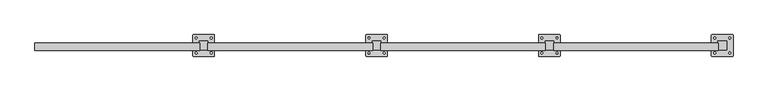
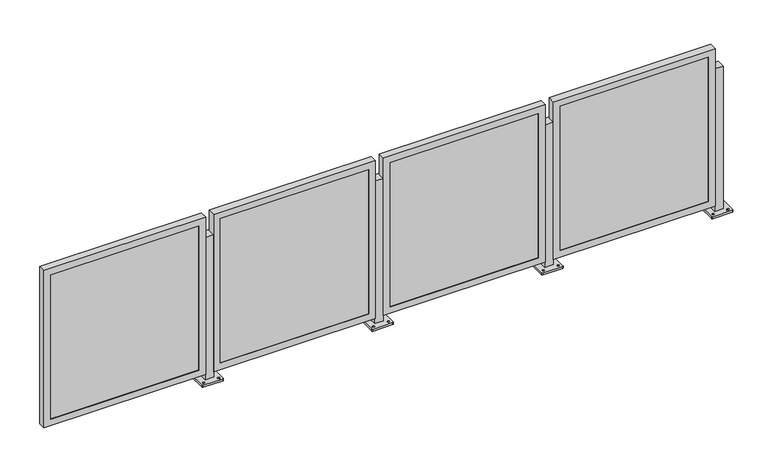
"""IFC4 building model written with IfcOpenShell, lengths in millimetres: railing geometry."""

from ifc_helpers import new_model, si_unit, frame, origin, place, context, project, spatial, polyline, circle_curve, outline, extrude, faceted_brep, source, transform, mapped, element, save
from ifc_brep_helpers import plane_surface, cylinder_surface, revolved_surface, advanced_brep


def railing_2fe99872(model_context):
    return source(origin(), model_context, "Body", "SolidModel", [
        advanced_brep(
        [(-7238.6460435, -9692.6420964, 914.4), (-7238.6460435, -9743.4420964, 914.4), (-7187.8460435, -9743.4420964, 914.4), (-7187.8460435, -9692.6420964, 914.4), (-7276.7460437, -9778.3670554, 0.0), (-7276.7460437, -9657.7171374, 0.0), (-7273.5710155, -9654.5421093, 0.0), (-7152.9210715, -9654.5421093, 0.0), (-7149.7460433, -9657.7171374, 0.0), (-7149.7460433, -9778.3670554, 0.0), (-7152.9210715, -9781.5420835, 0.0), (-7273.5710155, -9781.5420835, 0.0), (-7257.6960311, -9768.0483511, 0.0), (-7257.6960311, -9756.9358386, 0.0), (-7257.696042, -9679.1483467, 0.0), (-7257.696042, -9668.0358651, 0.0), (-7168.7960301, -9768.0483495, 0.0), (-7168.7960301, -9756.9358389, 0.0), (-7168.796041, -9679.1483452, 0.0), (-7168.796041, -9668.0358654, 0.0), (-7238.6460435, -9692.6420964, 12.7), (-7238.6460435, -9743.4420964, 12.7), (-7187.8460435, -9743.4420964, 12.7), (-7187.8460435, -9692.6420964, 12.7), (-7276.7460437, -9778.3670554, 12.7), (-7273.5710155, -9781.5420835, 12.7), (-7152.9210715, -9781.5420835, 12.7), (-7149.7460433, -9778.3670554, 12.7), (-7149.7460433, -9657.7171374, 12.7), (-7152.9210715, -9654.5421093, 12.7), (-7273.5710155, -9654.5421093, 12.7), (-7276.7460437, -9657.7171374, 12.7), (-7257.6960311, -9768.0483511, 12.7), (-7257.6960311, -9756.9358386, 12.7), (-7257.696042, -9679.1483467, 12.7), (-7257.696042, -9668.0358651, 12.7), (-7168.7960301, -9768.0483495, 12.7), (-7168.7960301, -9756.9358389, 12.7), (-7168.796041, -9679.1483452, 12.7), (-7168.796041, -9668.0358654, 12.7)],
        [
            (0, 1),
            (1, 2),
            (2, 3),
            (3, 0),
            (4, 5),
            (5, 6, circle_curve(frame((-7273.5710155, -9657.7171374, 0.0), z_axis=(0.0, 0.0, -1.0), x_axis=(0.0, 1.0, 0.0)), 3.1750282)),
            (6, 7),
            (7, 8, circle_curve(frame((-7152.9210715, -9657.7171374, 0.0), z_axis=(0.0, 0.0, -1.0), x_axis=(0.0, 1.0, 0.0)), 3.1750282)),
            (8, 9),
            (9, 10, circle_curve(frame((-7152.9210715, -9778.3670554, 0.0), z_axis=(0.0, 0.0, -1.0), x_axis=(0.0, 1.0, 0.0)), 3.1750282)),
            (10, 11),
            (11, 4, circle_curve(frame((-7273.5710155, -9778.3670554, 0.0), z_axis=(0.0, 0.0, -1.0), x_axis=(0.0, 1.0, 0.0)), 3.1750282)),
            (12, 13, circle_curve(frame((-7257.6960311, -9762.4920948, 0.0), z_axis=(0.0, 0.0, 1.0), x_axis=(0.0, 1.0, 0.0)), 5.5562562)),
            (13, 12, circle_curve(frame((-7257.6960311, -9762.4920948, 0.0), z_axis=(0.0, 0.0, 1.0), x_axis=(0.0, 1.0, 0.0)), 5.5562562)),
            (14, 15, circle_curve(frame((-7257.696042, -9673.5921059, 0.0), z_axis=(0.0, 0.0, 1.0), x_axis=(0.0, 1.0, 0.0)), 5.5562408)),
            (15, 14, circle_curve(frame((-7257.696042, -9673.5921059, 0.0), z_axis=(0.0, 0.0, 1.0), x_axis=(0.0, 1.0, 0.0)), 5.5562408)),
            (16, 17, circle_curve(frame((-7168.7960301, -9762.4920942, 0.0), z_axis=(0.0, 0.0, 1.0), x_axis=(0.0, 1.0, 0.0)), 5.5562553)),
            (17, 16, circle_curve(frame((-7168.7960301, -9762.4920942, 0.0), z_axis=(0.0, 0.0, 1.0), x_axis=(0.0, 1.0, 0.0)), 5.5562553)),
            (18, 19, circle_curve(frame((-7168.796041, -9673.5921053, 0.0), z_axis=(0.0, 0.0, 1.0), x_axis=(0.0, 1.0, 0.0)), 5.5562399)),
            (19, 18, circle_curve(frame((-7168.796041, -9673.5921053, 0.0), z_axis=(0.0, 0.0, 1.0), x_axis=(0.0, 1.0, 0.0)), 5.5562399)),
            (0, 20),
            (20, 21),
            (21, 1),
            (21, 22),
            (22, 2),
            (22, 23),
            (23, 3),
            (23, 20),
            (24, 25, circle_curve(frame((-7273.5710155, -9778.3670554, 12.7), z_axis=(0.0, 0.0, 1.0), x_axis=(0.0, 1.0, 0.0)), 3.1750282)),
            (25, 26),
            (26, 27, circle_curve(frame((-7152.9210715, -9778.3670554, 12.7), z_axis=(0.0, 0.0, 1.0), x_axis=(0.0, 1.0, 0.0)), 3.1750282)),
            (27, 28),
            (28, 29, circle_curve(frame((-7152.9210715, -9657.7171374, 12.7), z_axis=(0.0, 0.0, 1.0), x_axis=(0.0, 1.0, 0.0)), 3.1750282)),
            (29, 30),
            (30, 31, circle_curve(frame((-7273.5710155, -9657.7171374, 12.7), z_axis=(0.0, 0.0, 1.0), x_axis=(0.0, 1.0, 0.0)), 3.1750282)),
            (31, 24),
            (32, 33, circle_curve(frame((-7257.6960311, -9762.4920948, 12.7), z_axis=(0.0, 0.0, -1.0), x_axis=(0.0, 1.0, 0.0)), 5.5562562)),
            (33, 32, circle_curve(frame((-7257.6960311, -9762.4920948, 12.7), z_axis=(0.0, 0.0, -1.0), x_axis=(0.0, 1.0, 0.0)), 5.5562562)),
            (34, 35, circle_curve(frame((-7257.696042, -9673.5921059, 12.7), z_axis=(0.0, 0.0, -1.0), x_axis=(0.0, 1.0, 0.0)), 5.5562408)),
            (35, 34, circle_curve(frame((-7257.696042, -9673.5921059, 12.7), z_axis=(0.0, 0.0, -1.0), x_axis=(0.0, 1.0, 0.0)), 5.5562408)),
            (36, 37, circle_curve(frame((-7168.7960301, -9762.4920942, 12.7), z_axis=(0.0, 0.0, -1.0), x_axis=(0.0, 1.0, 0.0)), 5.5562553)),
            (37, 36, circle_curve(frame((-7168.7960301, -9762.4920942, 12.7), z_axis=(0.0, 0.0, -1.0), x_axis=(0.0, 1.0, 0.0)), 5.5562553)),
            (38, 39, circle_curve(frame((-7168.796041, -9673.5921053, 12.7), z_axis=(0.0, 0.0, -1.0), x_axis=(0.0, 1.0, 0.0)), 5.5562399)),
            (39, 38, circle_curve(frame((-7168.796041, -9673.5921053, 12.7), z_axis=(0.0, 0.0, -1.0), x_axis=(0.0, 1.0, 0.0)), 5.5562399)),
            (24, 4),
            (11, 25),
            (10, 26),
            (9, 27),
            (8, 28),
            (7, 29),
            (6, 30),
            (5, 31),
            (32, 12),
            (13, 33),
            (34, 14),
            (15, 35),
            (36, 16),
            (17, 37),
            (38, 18),
            (19, 39),
        ],
        [
            plane_surface(frame((-7238.6460435, -9743.4420964, 914.4), z_axis=(0.0, 0.0, 1.0), x_axis=(0.0, -1.0, 0.0))),
            plane_surface(frame((-7238.6460435, -9743.4420964, 0.0), z_axis=(0.0, 0.0, -1.0), x_axis=(0.0, 1.0, 0.0))),
            plane_surface(frame((-7238.6460435, -9692.6420964, 914.4), z_axis=(-1.0, 0.0, 0.0), x_axis=(0.0, 0.0, -1.0))),
            plane_surface(frame((-7238.6460435, -9743.4420964, 914.4), z_axis=(0.0, -1.0, 0.0), x_axis=(0.0, 0.0, -1.0))),
            plane_surface(frame((-7187.8460435, -9743.4420964, 914.4), z_axis=(1.0, 0.0, 0.0), x_axis=(0.0, 0.0, -1.0))),
            plane_surface(frame((-7187.8460435, -9692.6420964, 914.4), z_axis=(0.0, 1.0, 0.0), x_axis=(0.0, 0.0, -1.0))),
            plane_surface(frame((-7273.5710155, -9775.1920272, 12.7), z_axis=(0.0, 0.0, 1.0), x_axis=(-1.0, 0.0, 0.0))),
            cylinder_surface(frame((-7273.5710155, -9778.3670554, 0.0), z_axis=(0.0, 0.0, 1.0), x_axis=(0.0, 1.0, 0.0)), 3.1750282),
            plane_surface(frame((-7273.5710155, -9781.5420835, 12.7), z_axis=(1.1945386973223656e-12, -1.0, 0.0), x_axis=(0.0, 0.0, -1.0))),
            cylinder_surface(frame((-7152.9210715, -9778.3670554, 0.0), z_axis=(0.0, 0.0, 1.0), x_axis=(0.0, 1.0, 0.0)), 3.1750282),
            plane_surface(frame((-7149.7460433, -9778.3670554, 12.7), z_axis=(1.0, 0.0, 0.0), x_axis=(0.0, 0.0, -1.0))),
            cylinder_surface(frame((-7152.9210715, -9657.7171374, 0.0), z_axis=(0.0, 0.0, 1.0), x_axis=(0.0, 1.0, 0.0)), 3.1750282),
            plane_surface(frame((-7152.9210715, -9654.5421093, 12.7), z_axis=(-1.1946088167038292e-12, 1.0, 0.0), x_axis=(0.0, 0.0, -1.0))),
            cylinder_surface(frame((-7273.5710155, -9657.7171374, 0.0), z_axis=(0.0, 0.0, 1.0), x_axis=(0.0, 1.0, 0.0)), 3.1750282),
            plane_surface(frame((-7276.7460437, -9657.7171374, 12.7), z_axis=(-1.0, 0.0, 0.0), x_axis=(0.0, 0.0, -1.0))),
            revolved_surface(polyline([(-7257.6960311, -9756.9358386, 0.0), (-7257.6960311, -9756.9358386, 12.7)]), (-7257.6960311, -9762.4920948, 0.0), (0.0, 0.0, -1.0)),
            revolved_surface(polyline([(-7257.696042, -9668.035865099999, 0.0), (-7257.696042, -9668.035865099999, 12.7)]), (-7257.696042, -9673.5921059, 0.0), (0.0, 0.0, -1.0)),
            revolved_surface(polyline([(-7168.7960301, -9756.9358389, 0.0), (-7168.7960301, -9756.9358389, 12.7)]), (-7168.7960301, -9762.4920942, 0.0), (0.0, 0.0, -1.0)),
            revolved_surface(polyline([(-7168.796041, -9668.035865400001, 0.0), (-7168.796041, -9668.035865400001, 12.7)]), (-7168.796041, -9673.5921053, 0.0), (0.0, 0.0, -1.0)),
        ],
        [
            (0, [[1, 2, 3, 4]]),
            (1, [[5, 6, 7, 8, 9, 10, 11, 12], [13, 14], [15, 16], [17, 18], [19, 20]]),
            (2, [[-1, 21, 22, 23]]),
            (3, [[-2, -23, 24, 25]]),
            (4, [[-3, -25, 26, 27]]),
            (5, [[-4, -27, 28, -21]]),
            (6, [[29, 30, 31, 32, 33, 34, 35, 36], [-22, -28, -26, -24], [37, 38], [39, 40], [41, 42], [43, 44]]),
            (7, [[-29, 45, -12, 46]]),
            (8, [[-30, -46, -11, 47]]),
            (9, [[-31, -47, -10, 48]]),
            (10, [[-32, -48, -9, 49]]),
            (11, [[-33, -49, -8, 50]]),
            (12, [[-34, -50, -7, 51]]),
            (13, [[-35, -51, -6, 52]]),
            (14, [[-36, -52, -5, -45]]),
            (15, [[-37, 53, -14, 54]]),
            (15, [[-38, -54, -13, -53]]),
            (16, [[-39, 55, -16, 56]]),
            (16, [[-40, -56, -15, -55]]),
            (17, [[-41, 57, -18, 58]]),
            (17, [[-42, -58, -17, -57]]),
            (18, [[-43, 59, -20, 60]]),
            (18, [[-44, -60, -19, -59]]),
        ],
    ),
        faceted_brep([(-8205.0504969, -9746.1852964, 47.625), (-7236.6754969, -9746.1852964, 47.625), (-7236.6754969, -9746.1852964, 1044.575), (-8205.0504969, -9746.1852964, 1044.575), (-8163.7754969, -9746.1852964, 1003.3), (-7277.9504969, -9746.1852964, 1003.3), (-7277.9504969, -9746.1852964, 88.9), (-8163.7754969, -9746.1852964, 88.9), (-8163.7754969, -9743.4420964, 1003.3), (-8163.7754969, -9743.4420964, 88.9), (-8205.0504969, -9702.3119999, 1044.575), (-8205.0504969, -9702.3119999, 47.625), (-8201.8754969, -9702.3119999, 1041.4), (-8201.8754969, -9743.4420964, 1041.4), (-8201.8754969, -9743.4420964, 50.8), (-8201.8754969, -9702.3119999, 50.8), (-7277.9504969, -9743.4420964, 88.9), (-7236.6754969, -9702.3119999, 47.625), (-7239.8504969, -9743.4420964, 50.8), (-7239.8504969, -9702.3119999, 50.8), (-7277.9504969, -9743.4420964, 1003.3), (-7236.6754969, -9702.3119999, 1044.575), (-7239.8504969, -9743.4420964, 1041.4), (-7239.8504969, -9702.3119999, 1041.4)], [[[0, 1, 2, 3], [4, 5, 6, 7]], [[8, 4, 7, 9]], [[3, 10, 11, 0]], [[12, 13, 14, 15]], [[9, 7, 6, 16]], [[0, 11, 17, 1]], [[15, 14, 18, 19]], [[16, 6, 5, 20]], [[1, 17, 21, 2]], [[19, 18, 22, 23]], [[20, 5, 4, 8]], [[10, 21, 17, 11], [15, 19, 23, 12]], [[2, 21, 10, 3]], [[13, 22, 18, 14], [9, 16, 20, 8]], [[23, 22, 13, 12]]]),
        extrude(outline(polyline([(-8201.8754969, -9733.9170964), (-7239.8504969, -9733.9170964), (-7239.8504969, -9743.4420964), (-8201.8754969, -9743.4420964), (-8201.8754969, -9733.9170964)])), frame((0.0, 0.0, 50.8), z_axis=(0.0, 0.0, 1.0), x_axis=(1.0, 0.0, 0.0)), (0.0, 0.0, 1.0), 990.6),
        advanced_brep(
        [(-8254.6460435, -9692.6420964, 914.4), (-8254.6460435, -9743.4420964, 914.4), (-8203.8460435, -9743.4420964, 914.4), (-8203.8460435, -9692.6420964, 914.4), (-8292.7460437, -9778.3670554, 0.0), (-8292.7460437, -9657.7171374, 0.0), (-8289.5710155, -9654.5421093, 0.0), (-8168.9210715, -9654.5421093, 0.0), (-8165.7460433, -9657.7171374, 0.0), (-8165.7460433, -9778.3670554, 0.0), (-8168.9210715, -9781.5420835, 0.0), (-8289.5710155, -9781.5420835, 0.0), (-8273.6960311, -9768.0483511, 0.0), (-8273.6960311, -9756.9358386, 0.0), (-8273.696042, -9679.1483467, 0.0), (-8273.696042, -9668.0358651, 0.0), (-8184.7960301, -9768.0483495, 0.0), (-8184.7960301, -9756.9358389, 0.0), (-8184.796041, -9679.1483452, 0.0), (-8184.796041, -9668.0358654, 0.0), (-8254.6460435, -9692.6420964, 12.7), (-8254.6460435, -9743.4420964, 12.7), (-8203.8460435, -9743.4420964, 12.7), (-8203.8460435, -9692.6420964, 12.7), (-8292.7460437, -9778.3670554, 12.7), (-8289.5710155, -9781.5420835, 12.7), (-8168.9210715, -9781.5420835, 12.7), (-8165.7460433, -9778.3670554, 12.7), (-8165.7460433, -9657.7171374, 12.7), (-8168.9210715, -9654.5421093, 12.7), (-8289.5710155, -9654.5421093, 12.7), (-8292.7460437, -9657.7171374, 12.7), (-8273.6960311, -9768.0483511, 12.7), (-8273.6960311, -9756.9358386, 12.7), (-8273.696042, -9679.1483467, 12.7), (-8273.696042, -9668.0358651, 12.7), (-8184.7960301, -9768.0483495, 12.7), (-8184.7960301, -9756.9358389, 12.7), (-8184.796041, -9679.1483452, 12.7), (-8184.796041, -9668.0358654, 12.7)],
        [
            (0, 1),
            (1, 2),
            (2, 3),
            (3, 0),
            (4, 5),
            (5, 6, circle_curve(frame((-8289.5710155, -9657.7171374, 0.0), z_axis=(0.0, 0.0, -1.0), x_axis=(0.0, 1.0, 0.0)), 3.1750282)),
            (6, 7),
            (7, 8, circle_curve(frame((-8168.9210715, -9657.7171374, 0.0), z_axis=(0.0, 0.0, -1.0), x_axis=(0.0, 1.0, 0.0)), 3.1750282)),
            (8, 9),
            (9, 10, circle_curve(frame((-8168.9210715, -9778.3670554, 0.0), z_axis=(0.0, 0.0, -1.0), x_axis=(0.0, 1.0, 0.0)), 3.1750282)),
            (10, 11),
            (11, 4, circle_curve(frame((-8289.5710155, -9778.3670554, 0.0), z_axis=(0.0, 0.0, -1.0), x_axis=(0.0, 1.0, 0.0)), 3.1750282)),
            (12, 13, circle_curve(frame((-8273.6960311, -9762.4920948, 0.0), z_axis=(0.0, 0.0, 1.0), x_axis=(0.0, 1.0, 0.0)), 5.5562562)),
            (13, 12, circle_curve(frame((-8273.6960311, -9762.4920948, 0.0), z_axis=(0.0, 0.0, 1.0), x_axis=(0.0, 1.0, 0.0)), 5.5562562)),
            (14, 15, circle_curve(frame((-8273.696042, -9673.5921059, 0.0), z_axis=(0.0, 0.0, 1.0), x_axis=(0.0, 1.0, 0.0)), 5.5562408)),
            (15, 14, circle_curve(frame((-8273.696042, -9673.5921059, 0.0), z_axis=(0.0, 0.0, 1.0), x_axis=(0.0, 1.0, 0.0)), 5.5562408)),
            (16, 17, circle_curve(frame((-8184.7960301, -9762.4920942, 0.0), z_axis=(0.0, 0.0, 1.0), x_axis=(0.0, 1.0, 0.0)), 5.5562553)),
            (17, 16, circle_curve(frame((-8184.7960301, -9762.4920942, 0.0), z_axis=(0.0, 0.0, 1.0), x_axis=(0.0, 1.0, 0.0)), 5.5562553)),
            (18, 19, circle_curve(frame((-8184.796041, -9673.5921053, 0.0), z_axis=(0.0, 0.0, 1.0), x_axis=(0.0, 1.0, 0.0)), 5.5562399)),
            (19, 18, circle_curve(frame((-8184.796041, -9673.5921053, 0.0), z_axis=(0.0, 0.0, 1.0), x_axis=(0.0, 1.0, 0.0)), 5.5562399)),
            (0, 20),
            (20, 21),
            (21, 1),
            (21, 22),
            (22, 2),
            (22, 23),
            (23, 3),
            (23, 20),
            (24, 25, circle_curve(frame((-8289.5710155, -9778.3670554, 12.7), z_axis=(0.0, 0.0, 1.0), x_axis=(0.0, 1.0, 0.0)), 3.1750282)),
            (25, 26),
            (26, 27, circle_curve(frame((-8168.9210715, -9778.3670554, 12.7), z_axis=(0.0, 0.0, 1.0), x_axis=(0.0, 1.0, 0.0)), 3.1750282)),
            (27, 28),
            (28, 29, circle_curve(frame((-8168.9210715, -9657.7171374, 12.7), z_axis=(0.0, 0.0, 1.0), x_axis=(0.0, 1.0, 0.0)), 3.1750282)),
            (29, 30),
            (30, 31, circle_curve(frame((-8289.5710155, -9657.7171374, 12.7), z_axis=(0.0, 0.0, 1.0), x_axis=(0.0, 1.0, 0.0)), 3.1750282)),
            (31, 24),
            (32, 33, circle_curve(frame((-8273.6960311, -9762.4920948, 12.7), z_axis=(0.0, 0.0, -1.0), x_axis=(0.0, 1.0, 0.0)), 5.5562562)),
            (33, 32, circle_curve(frame((-8273.6960311, -9762.4920948, 12.7), z_axis=(0.0, 0.0, -1.0), x_axis=(0.0, 1.0, 0.0)), 5.5562562)),
            (34, 35, circle_curve(frame((-8273.696042, -9673.5921059, 12.7), z_axis=(0.0, 0.0, -1.0), x_axis=(0.0, 1.0, 0.0)), 5.5562408)),
            (35, 34, circle_curve(frame((-8273.696042, -9673.5921059, 12.7), z_axis=(0.0, 0.0, -1.0), x_axis=(0.0, 1.0, 0.0)), 5.5562408)),
            (36, 37, circle_curve(frame((-8184.7960301, -9762.4920942, 12.7), z_axis=(0.0, 0.0, -1.0), x_axis=(0.0, 1.0, 0.0)), 5.5562553)),
            (37, 36, circle_curve(frame((-8184.7960301, -9762.4920942, 12.7), z_axis=(0.0, 0.0, -1.0), x_axis=(0.0, 1.0, 0.0)), 5.5562553)),
            (38, 39, circle_curve(frame((-8184.796041, -9673.5921053, 12.7), z_axis=(0.0, 0.0, -1.0), x_axis=(0.0, 1.0, 0.0)), 5.5562399)),
            (39, 38, circle_curve(frame((-8184.796041, -9673.5921053, 12.7), z_axis=(0.0, 0.0, -1.0), x_axis=(0.0, 1.0, 0.0)), 5.5562399)),
            (24, 4),
            (11, 25),
            (10, 26),
            (9, 27),
            (8, 28),
            (7, 29),
            (6, 30),
            (5, 31),
            (32, 12),
            (13, 33),
            (34, 14),
            (15, 35),
            (36, 16),
            (17, 37),
            (38, 18),
            (19, 39),
        ],
        [
            plane_surface(frame((-8254.6460435, -9743.4420964, 914.4), z_axis=(0.0, 0.0, 1.0), x_axis=(0.0, -1.0, 0.0))),
            plane_surface(frame((-8254.6460435, -9743.4420964, 0.0), z_axis=(0.0, 0.0, -1.0), x_axis=(0.0, 1.0, 0.0))),
            plane_surface(frame((-8254.6460435, -9692.6420964, 914.4), z_axis=(-1.0, 0.0, 0.0), x_axis=(0.0, 0.0, -1.0))),
            plane_surface(frame((-8254.6460435, -9743.4420964, 914.4), z_axis=(0.0, -1.0, 0.0), x_axis=(0.0, 0.0, -1.0))),
            plane_surface(frame((-8203.8460435, -9743.4420964, 914.4), z_axis=(1.0, 0.0, 0.0), x_axis=(0.0, 0.0, -1.0))),
            plane_surface(frame((-8203.8460435, -9692.6420964, 914.4), z_axis=(0.0, 1.0, 0.0), x_axis=(0.0, 0.0, -1.0))),
            plane_surface(frame((-8289.5710155, -9775.1920272, 12.7), z_axis=(0.0, 0.0, 1.0), x_axis=(-1.0, 0.0, 0.0))),
            cylinder_surface(frame((-8289.5710155, -9778.3670554, 0.0), z_axis=(0.0, 0.0, 1.0), x_axis=(0.0, 1.0, 0.0)), 3.1750282),
            plane_surface(frame((-8289.5710155, -9781.5420835, 12.7), z_axis=(1.1945386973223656e-12, -1.0, 0.0), x_axis=(0.0, 0.0, -1.0))),
            cylinder_surface(frame((-8168.9210715, -9778.3670554, 0.0), z_axis=(0.0, 0.0, 1.0), x_axis=(0.0, 1.0, 0.0)), 3.1750282),
            plane_surface(frame((-8165.7460433, -9778.3670554, 12.7), z_axis=(1.0, 0.0, 0.0), x_axis=(0.0, 0.0, -1.0))),
            cylinder_surface(frame((-8168.9210715, -9657.7171374, 0.0), z_axis=(0.0, 0.0, 1.0), x_axis=(0.0, 1.0, 0.0)), 3.1750282),
            plane_surface(frame((-8168.9210715, -9654.5421093, 12.7), z_axis=(-1.1946088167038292e-12, 1.0, 0.0), x_axis=(0.0, 0.0, -1.0))),
            cylinder_surface(frame((-8289.5710155, -9657.7171374, 0.0), z_axis=(0.0, 0.0, 1.0), x_axis=(0.0, 1.0, 0.0)), 3.1750282),
            plane_surface(frame((-8292.7460437, -9657.7171374, 12.7), z_axis=(-1.0, 0.0, 0.0), x_axis=(0.0, 0.0, -1.0))),
            revolved_surface(polyline([(-8273.6960311, -9756.9358386, 0.0), (-8273.6960311, -9756.9358386, 12.7)]), (-8273.6960311, -9762.4920948, 0.0), (0.0, 0.0, -1.0)),
            revolved_surface(polyline([(-8273.696042, -9668.035865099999, 0.0), (-8273.696042, -9668.035865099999, 12.7)]), (-8273.696042, -9673.5921059, 0.0), (0.0, 0.0, -1.0)),
            revolved_surface(polyline([(-8184.7960301, -9756.9358389, 0.0), (-8184.7960301, -9756.9358389, 12.7)]), (-8184.7960301, -9762.4920942, 0.0), (0.0, 0.0, -1.0)),
            revolved_surface(polyline([(-8184.796041, -9668.035865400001, 0.0), (-8184.796041, -9668.035865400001, 12.7)]), (-8184.796041, -9673.5921053, 0.0), (0.0, 0.0, -1.0)),
        ],
        [
            (0, [[1, 2, 3, 4]]),
            (1, [[5, 6, 7, 8, 9, 10, 11, 12], [13, 14], [15, 16], [17, 18], [19, 20]]),
            (2, [[-1, 21, 22, 23]]),
            (3, [[-2, -23, 24, 25]]),
            (4, [[-3, -25, 26, 27]]),
            (5, [[-4, -27, 28, -21]]),
            (6, [[29, 30, 31, 32, 33, 34, 35, 36], [-22, -28, -26, -24], [37, 38], [39, 40], [41, 42], [43, 44]]),
            (7, [[-29, 45, -12, 46]]),
            (8, [[-30, -46, -11, 47]]),
            (9, [[-31, -47, -10, 48]]),
            (10, [[-32, -48, -9, 49]]),
            (11, [[-33, -49, -8, 50]]),
            (12, [[-34, -50, -7, 51]]),
            (13, [[-35, -51, -6, 52]]),
            (14, [[-36, -52, -5, -45]]),
            (15, [[-37, 53, -14, 54]]),
            (15, [[-38, -54, -13, -53]]),
            (16, [[-39, 55, -16, 56]]),
            (16, [[-40, -56, -15, -55]]),
            (17, [[-41, 57, -18, 58]]),
            (17, [[-42, -58, -17, -57]]),
            (18, [[-43, 59, -20, 60]]),
            (18, [[-44, -60, -19, -59]]),
        ],
    ),
        faceted_brep([(-9221.0504969, -9746.1852964, 47.625), (-8252.6754969, -9746.1852964, 47.625), (-8252.6754969, -9746.1852964, 1044.575), (-9221.0504969, -9746.1852964, 1044.575), (-9179.7754969, -9746.1852964, 1003.3), (-8293.9504969, -9746.1852964, 1003.3), (-8293.9504969, -9746.1852964, 88.9), (-9179.7754969, -9746.1852964, 88.9), (-9179.7754969, -9743.4420964, 1003.3), (-9179.7754969, -9743.4420964, 88.9), (-9221.0504969, -9702.3119999, 1044.575), (-9221.0504969, -9702.3119999, 47.625), (-9217.8754969, -9702.3119999, 1041.4), (-9217.8754969, -9743.4420964, 1041.4), (-9217.8754969, -9743.4420964, 50.8), (-9217.8754969, -9702.3119999, 50.8), (-8293.9504969, -9743.4420964, 88.9), (-8252.6754969, -9702.3119999, 47.625), (-8255.8504969, -9743.4420964, 50.8), (-8255.8504969, -9702.3119999, 50.8), (-8293.9504969, -9743.4420964, 1003.3), (-8252.6754969, -9702.3119999, 1044.575), (-8255.8504969, -9743.4420964, 1041.4), (-8255.8504969, -9702.3119999, 1041.4)], [[[0, 1, 2, 3], [4, 5, 6, 7]], [[8, 4, 7, 9]], [[3, 10, 11, 0]], [[12, 13, 14, 15]], [[9, 7, 6, 16]], [[0, 11, 17, 1]], [[15, 14, 18, 19]], [[16, 6, 5, 20]], [[1, 17, 21, 2]], [[19, 18, 22, 23]], [[20, 5, 4, 8]], [[10, 21, 17, 11], [15, 19, 23, 12]], [[2, 21, 10, 3]], [[13, 22, 18, 14], [9, 16, 20, 8]], [[23, 22, 13, 12]]]),
        extrude(outline(polyline([(-9217.8754969, -9733.9170964), (-8255.8504969, -9733.9170964), (-8255.8504969, -9743.4420964), (-9217.8754969, -9743.4420964), (-9217.8754969, -9733.9170964)])), frame((0.0, 0.0, 50.8), z_axis=(0.0, 0.0, 1.0), x_axis=(1.0, 0.0, 0.0)), (0.0, 0.0, 1.0), 990.6),
        advanced_brep(
        [(-9270.6460435, -9692.6420964, 914.4), (-9270.6460435, -9743.4420964, 914.4), (-9219.8460435, -9743.4420964, 914.4), (-9219.8460435, -9692.6420964, 914.4), (-9308.7460437, -9778.3670554, 0.0), (-9308.7460437, -9657.7171374, 0.0), (-9305.5710155, -9654.5421093, 0.0), (-9184.9210715, -9654.5421093, 0.0), (-9181.7460433, -9657.7171374, 0.0), (-9181.7460433, -9778.3670554, 0.0), (-9184.9210715, -9781.5420835, 0.0), (-9305.5710155, -9781.5420835, 0.0), (-9289.6960311, -9768.0483511, 0.0), (-9289.6960311, -9756.9358386, 0.0), (-9289.696042, -9679.1483467, 0.0), (-9289.696042, -9668.0358651, 0.0), (-9200.7960301, -9768.0483495, 0.0), (-9200.7960301, -9756.9358389, 0.0), (-9200.796041, -9679.1483452, 0.0), (-9200.796041, -9668.0358654, 0.0), (-9270.6460435, -9692.6420964, 12.7), (-9270.6460435, -9743.4420964, 12.7), (-9219.8460435, -9743.4420964, 12.7), (-9219.8460435, -9692.6420964, 12.7), (-9308.7460437, -9778.3670554, 12.7), (-9305.5710155, -9781.5420835, 12.7), (-9184.9210715, -9781.5420835, 12.7), (-9181.7460433, -9778.3670554, 12.7), (-9181.7460433, -9657.7171374, 12.7), (-9184.9210715, -9654.5421093, 12.7), (-9305.5710155, -9654.5421093, 12.7), (-9308.7460437, -9657.7171374, 12.7), (-9289.6960311, -9768.0483511, 12.7), (-9289.6960311, -9756.9358386, 12.7), (-9289.696042, -9679.1483467, 12.7), (-9289.696042, -9668.0358651, 12.7), (-9200.7960301, -9768.0483495, 12.7), (-9200.7960301, -9756.9358389, 12.7), (-9200.796041, -9679.1483452, 12.7), (-9200.796041, -9668.0358654, 12.7)],
        [
            (0, 1),
            (1, 2),
            (2, 3),
            (3, 0),
            (4, 5),
            (5, 6, circle_curve(frame((-9305.5710155, -9657.7171374, 0.0), z_axis=(0.0, 0.0, -1.0), x_axis=(0.0, 1.0, 0.0)), 3.1750282)),
            (6, 7),
            (7, 8, circle_curve(frame((-9184.9210715, -9657.7171374, 0.0), z_axis=(0.0, 0.0, -1.0), x_axis=(0.0, 1.0, 0.0)), 3.1750282)),
            (8, 9),
            (9, 10, circle_curve(frame((-9184.9210715, -9778.3670554, 0.0), z_axis=(0.0, 0.0, -1.0), x_axis=(0.0, 1.0, 0.0)), 3.1750282)),
            (10, 11),
            (11, 4, circle_curve(frame((-9305.5710155, -9778.3670554, 0.0), z_axis=(0.0, 0.0, -1.0), x_axis=(0.0, 1.0, 0.0)), 3.1750282)),
            (12, 13, circle_curve(frame((-9289.6960311, -9762.4920948, 0.0), z_axis=(0.0, 0.0, 1.0), x_axis=(0.0, 1.0, 0.0)), 5.5562562)),
            (13, 12, circle_curve(frame((-9289.6960311, -9762.4920948, 0.0), z_axis=(0.0, 0.0, 1.0), x_axis=(0.0, 1.0, 0.0)), 5.5562562)),
            (14, 15, circle_curve(frame((-9289.696042, -9673.5921059, 0.0), z_axis=(0.0, 0.0, 1.0), x_axis=(0.0, 1.0, 0.0)), 5.5562408)),
            (15, 14, circle_curve(frame((-9289.696042, -9673.5921059, 0.0), z_axis=(0.0, 0.0, 1.0), x_axis=(0.0, 1.0, 0.0)), 5.5562408)),
            (16, 17, circle_curve(frame((-9200.7960301, -9762.4920942, 0.0), z_axis=(0.0, 0.0, 1.0), x_axis=(0.0, 1.0, 0.0)), 5.5562553)),
            (17, 16, circle_curve(frame((-9200.7960301, -9762.4920942, 0.0), z_axis=(0.0, 0.0, 1.0), x_axis=(0.0, 1.0, 0.0)), 5.5562553)),
            (18, 19, circle_curve(frame((-9200.796041, -9673.5921053, 0.0), z_axis=(0.0, 0.0, 1.0), x_axis=(0.0, 1.0, 0.0)), 5.5562399)),
            (19, 18, circle_curve(frame((-9200.796041, -9673.5921053, 0.0), z_axis=(0.0, 0.0, 1.0), x_axis=(0.0, 1.0, 0.0)), 5.5562399)),
            (0, 20),
            (20, 21),
            (21, 1),
            (21, 22),
            (22, 2),
            (22, 23),
            (23, 3),
            (23, 20),
            (24, 25, circle_curve(frame((-9305.5710155, -9778.3670554, 12.7), z_axis=(0.0, 0.0, 1.0), x_axis=(0.0, 1.0, 0.0)), 3.1750282)),
            (25, 26),
            (26, 27, circle_curve(frame((-9184.9210715, -9778.3670554, 12.7), z_axis=(0.0, 0.0, 1.0), x_axis=(0.0, 1.0, 0.0)), 3.1750282)),
            (27, 28),
            (28, 29, circle_curve(frame((-9184.9210715, -9657.7171374, 12.7), z_axis=(0.0, 0.0, 1.0), x_axis=(0.0, 1.0, 0.0)), 3.1750282)),
            (29, 30),
            (30, 31, circle_curve(frame((-9305.5710155, -9657.7171374, 12.7), z_axis=(0.0, 0.0, 1.0), x_axis=(0.0, 1.0, 0.0)), 3.1750282)),
            (31, 24),
            (32, 33, circle_curve(frame((-9289.6960311, -9762.4920948, 12.7), z_axis=(0.0, 0.0, -1.0), x_axis=(0.0, 1.0, 0.0)), 5.5562562)),
            (33, 32, circle_curve(frame((-9289.6960311, -9762.4920948, 12.7), z_axis=(0.0, 0.0, -1.0), x_axis=(0.0, 1.0, 0.0)), 5.5562562)),
            (34, 35, circle_curve(frame((-9289.696042, -9673.5921059, 12.7), z_axis=(0.0, 0.0, -1.0), x_axis=(0.0, 1.0, 0.0)), 5.5562408)),
            (35, 34, circle_curve(frame((-9289.696042, -9673.5921059, 12.7), z_axis=(0.0, 0.0, -1.0), x_axis=(0.0, 1.0, 0.0)), 5.5562408)),
            (36, 37, circle_curve(frame((-9200.7960301, -9762.4920942, 12.7), z_axis=(0.0, 0.0, -1.0), x_axis=(0.0, 1.0, 0.0)), 5.5562553)),
            (37, 36, circle_curve(frame((-9200.7960301, -9762.4920942, 12.7), z_axis=(0.0, 0.0, -1.0), x_axis=(0.0, 1.0, 0.0)), 5.5562553)),
            (38, 39, circle_curve(frame((-9200.796041, -9673.5921053, 12.7), z_axis=(0.0, 0.0, -1.0), x_axis=(0.0, 1.0, 0.0)), 5.5562399)),
            (39, 38, circle_curve(frame((-9200.796041, -9673.5921053, 12.7), z_axis=(0.0, 0.0, -1.0), x_axis=(0.0, 1.0, 0.0)), 5.5562399)),
            (24, 4),
            (11, 25),
            (10, 26),
            (9, 27),
            (8, 28),
            (7, 29),
            (6, 30),
            (5, 31),
            (32, 12),
            (13, 33),
            (34, 14),
            (15, 35),
            (36, 16),
            (17, 37),
            (38, 18),
            (19, 39),
        ],
        [
            plane_surface(frame((-9270.6460435, -9743.4420964, 914.4), z_axis=(0.0, 0.0, 1.0), x_axis=(0.0, -1.0, 0.0))),
            plane_surface(frame((-9270.6460435, -9743.4420964, 0.0), z_axis=(0.0, 0.0, -1.0), x_axis=(0.0, 1.0, 0.0))),
            plane_surface(frame((-9270.6460435, -9692.6420964, 914.4), z_axis=(-1.0, 0.0, 0.0), x_axis=(0.0, 0.0, -1.0))),
            plane_surface(frame((-9270.6460435, -9743.4420964, 914.4), z_axis=(0.0, -1.0, 0.0), x_axis=(0.0, 0.0, -1.0))),
            plane_surface(frame((-9219.8460435, -9743.4420964, 914.4), z_axis=(1.0, 0.0, 0.0), x_axis=(0.0, 0.0, -1.0))),
            plane_surface(frame((-9219.8460435, -9692.6420964, 914.4), z_axis=(0.0, 1.0, 0.0), x_axis=(0.0, 0.0, -1.0))),
            plane_surface(frame((-9305.5710155, -9775.1920272, 12.7), z_axis=(0.0, 0.0, 1.0), x_axis=(-1.0, 0.0, 0.0))),
            cylinder_surface(frame((-9305.5710155, -9778.3670554, 0.0), z_axis=(0.0, 0.0, 1.0), x_axis=(0.0, 1.0, 0.0)), 3.1750282),
            plane_surface(frame((-9305.5710155, -9781.5420835, 12.7), z_axis=(1.1945386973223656e-12, -1.0, 0.0), x_axis=(0.0, 0.0, -1.0))),
            cylinder_surface(frame((-9184.9210715, -9778.3670554, 0.0), z_axis=(0.0, 0.0, 1.0), x_axis=(0.0, 1.0, 0.0)), 3.1750282),
            plane_surface(frame((-9181.7460433, -9778.3670554, 12.7), z_axis=(1.0, 0.0, 0.0), x_axis=(0.0, 0.0, -1.0))),
            cylinder_surface(frame((-9184.9210715, -9657.7171374, 0.0), z_axis=(0.0, 0.0, 1.0), x_axis=(0.0, 1.0, 0.0)), 3.1750282),
            plane_surface(frame((-9184.9210715, -9654.5421093, 12.7), z_axis=(-1.1946088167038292e-12, 1.0, 0.0), x_axis=(0.0, 0.0, -1.0))),
            cylinder_surface(frame((-9305.5710155, -9657.7171374, 0.0), z_axis=(0.0, 0.0, 1.0), x_axis=(0.0, 1.0, 0.0)), 3.1750282),
            plane_surface(frame((-9308.7460437, -9657.7171374, 12.7), z_axis=(-1.0, 0.0, 0.0), x_axis=(0.0, 0.0, -1.0))),
            revolved_surface(polyline([(-9289.6960311, -9756.9358386, 0.0), (-9289.6960311, -9756.9358386, 12.7)]), (-9289.6960311, -9762.4920948, 0.0), (0.0, 0.0, -1.0)),
            revolved_surface(polyline([(-9289.696042, -9668.035865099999, 0.0), (-9289.696042, -9668.035865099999, 12.7)]), (-9289.696042, -9673.5921059, 0.0), (0.0, 0.0, -1.0)),
            revolved_surface(polyline([(-9200.7960301, -9756.9358389, 0.0), (-9200.7960301, -9756.9358389, 12.7)]), (-9200.7960301, -9762.4920942, 0.0), (0.0, 0.0, -1.0)),
            revolved_surface(polyline([(-9200.796041, -9668.035865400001, 0.0), (-9200.796041, -9668.035865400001, 12.7)]), (-9200.796041, -9673.5921053, 0.0), (0.0, 0.0, -1.0)),
        ],
        [
            (0, [[1, 2, 3, 4]]),
            (1, [[5, 6, 7, 8, 9, 10, 11, 12], [13, 14], [15, 16], [17, 18], [19, 20]]),
            (2, [[-1, 21, 22, 23]]),
            (3, [[-2, -23, 24, 25]]),
            (4, [[-3, -25, 26, 27]]),
            (5, [[-4, -27, 28, -21]]),
            (6, [[29, 30, 31, 32, 33, 34, 35, 36], [-22, -28, -26, -24], [37, 38], [39, 40], [41, 42], [43, 44]]),
            (7, [[-29, 45, -12, 46]]),
            (8, [[-30, -46, -11, 47]]),
            (9, [[-31, -47, -10, 48]]),
            (10, [[-32, -48, -9, 49]]),
            (11, [[-33, -49, -8, 50]]),
            (12, [[-34, -50, -7, 51]]),
            (13, [[-35, -51, -6, 52]]),
            (14, [[-36, -52, -5, -45]]),
            (15, [[-37, 53, -14, 54]]),
            (15, [[-38, -54, -13, -53]]),
            (16, [[-39, 55, -16, 56]]),
            (16, [[-40, -56, -15, -55]]),
            (17, [[-41, 57, -18, 58]]),
            (17, [[-42, -58, -17, -57]]),
            (18, [[-43, 59, -20, 60]]),
            (18, [[-44, -60, -19, -59]]),
        ],
    ),
        faceted_brep([(-10237.0504969, -9746.1852964, 47.625), (-9268.6754969, -9746.1852964, 47.625), (-9268.6754969, -9746.1852964, 1044.575), (-10237.0504969, -9746.1852964, 1044.575), (-10195.7754969, -9746.1852964, 1003.3), (-9309.9504969, -9746.1852964, 1003.3), (-9309.9504969, -9746.1852964, 88.9), (-10195.7754969, -9746.1852964, 88.9), (-10195.7754969, -9743.4420964, 1003.3), (-10195.7754969, -9743.4420964, 88.9), (-10237.0504969, -9702.3119999, 1044.575), (-10237.0504969, -9702.3119999, 47.625), (-10233.8754969, -9702.3119999, 1041.4), (-10233.8754969, -9743.4420964, 1041.4), (-10233.8754969, -9743.4420964, 50.8), (-10233.8754969, -9702.3119999, 50.8), (-9309.9504969, -9743.4420964, 88.9), (-9268.6754969, -9702.3119999, 47.625), (-9271.8504969, -9743.4420964, 50.8), (-9271.8504969, -9702.3119999, 50.8), (-9309.9504969, -9743.4420964, 1003.3), (-9268.6754969, -9702.3119999, 1044.575), (-9271.8504969, -9743.4420964, 1041.4), (-9271.8504969, -9702.3119999, 1041.4)], [[[0, 1, 2, 3], [4, 5, 6, 7]], [[8, 4, 7, 9]], [[3, 10, 11, 0]], [[12, 13, 14, 15]], [[9, 7, 6, 16]], [[0, 11, 17, 1]], [[15, 14, 18, 19]], [[16, 6, 5, 20]], [[1, 17, 21, 2]], [[19, 18, 22, 23]], [[20, 5, 4, 8]], [[10, 21, 17, 11], [15, 19, 23, 12]], [[2, 21, 10, 3]], [[13, 22, 18, 14], [9, 16, 20, 8]], [[23, 22, 13, 12]]]),
        extrude(outline(polyline([(-10233.8754969, -9733.9170964), (-9271.8504969, -9733.9170964), (-9271.8504969, -9743.4420964), (-10233.8754969, -9743.4420964), (-10233.8754969, -9733.9170964)])), frame((0.0, 0.0, 50.8), z_axis=(0.0, 0.0, 1.0), x_axis=(1.0, 0.0, 0.0)), (0.0, 0.0, 1.0), 990.6),
        advanced_brep(
        [(-10286.6460435, -9692.6420964, 914.4), (-10286.6460435, -9743.4420964, 914.4), (-10235.8460435, -9743.4420964, 914.4), (-10235.8460435, -9692.6420964, 914.4), (-10324.7460437, -9778.3670554, 0.0), (-10324.7460437, -9657.7171374, 0.0), (-10321.5710155, -9654.5421093, 0.0), (-10200.9210715, -9654.5421093, 0.0), (-10197.7460433, -9657.7171374, 0.0), (-10197.7460433, -9778.3670554, 0.0), (-10200.9210715, -9781.5420835, 0.0), (-10321.5710155, -9781.5420835, 0.0), (-10305.6960311, -9768.0483511, 0.0), (-10305.6960311, -9756.9358386, 0.0), (-10305.696042, -9679.1483467, 0.0), (-10305.696042, -9668.0358651, 0.0), (-10216.7960301, -9768.0483495, 0.0), (-10216.7960301, -9756.9358389, 0.0), (-10216.796041, -9679.1483452, 0.0), (-10216.796041, -9668.0358654, 0.0), (-10286.6460435, -9692.6420964, 12.7), (-10286.6460435, -9743.4420964, 12.7), (-10235.8460435, -9743.4420964, 12.7), (-10235.8460435, -9692.6420964, 12.7), (-10324.7460437, -9778.3670554, 12.7), (-10321.5710155, -9781.5420835, 12.7), (-10200.9210715, -9781.5420835, 12.7), (-10197.7460433, -9778.3670554, 12.7), (-10197.7460433, -9657.7171374, 12.7), (-10200.9210715, -9654.5421093, 12.7), (-10321.5710155, -9654.5421093, 12.7), (-10324.7460437, -9657.7171374, 12.7), (-10305.6960311, -9768.0483511, 12.7), (-10305.6960311, -9756.9358386, 12.7), (-10305.696042, -9679.1483467, 12.7), (-10305.696042, -9668.0358651, 12.7), (-10216.7960301, -9768.0483495, 12.7), (-10216.7960301, -9756.9358389, 12.7), (-10216.796041, -9679.1483452, 12.7), (-10216.796041, -9668.0358654, 12.7)],
        [
            (0, 1),
            (1, 2),
            (2, 3),
            (3, 0),
            (4, 5),
            (5, 6, circle_curve(frame((-10321.5710155, -9657.7171374, 0.0), z_axis=(0.0, 0.0, -1.0), x_axis=(0.0, 1.0, 0.0)), 3.1750282)),
            (6, 7),
            (7, 8, circle_curve(frame((-10200.9210715, -9657.7171374, 0.0), z_axis=(0.0, 0.0, -1.0), x_axis=(0.0, 1.0, 0.0)), 3.1750282)),
            (8, 9),
            (9, 10, circle_curve(frame((-10200.9210715, -9778.3670554, 0.0), z_axis=(0.0, 0.0, -1.0), x_axis=(0.0, 1.0, 0.0)), 3.1750282)),
            (10, 11),
            (11, 4, circle_curve(frame((-10321.5710155, -9778.3670554, 0.0), z_axis=(0.0, 0.0, -1.0), x_axis=(0.0, 1.0, 0.0)), 3.1750282)),
            (12, 13, circle_curve(frame((-10305.6960311, -9762.4920948, 0.0), z_axis=(0.0, 0.0, 1.0), x_axis=(0.0, 1.0, 0.0)), 5.5562562)),
            (13, 12, circle_curve(frame((-10305.6960311, -9762.4920948, 0.0), z_axis=(0.0, 0.0, 1.0), x_axis=(0.0, 1.0, 0.0)), 5.5562562)),
            (14, 15, circle_curve(frame((-10305.696042, -9673.5921059, 0.0), z_axis=(0.0, 0.0, 1.0), x_axis=(0.0, 1.0, 0.0)), 5.5562408)),
            (15, 14, circle_curve(frame((-10305.696042, -9673.5921059, 0.0), z_axis=(0.0, 0.0, 1.0), x_axis=(0.0, 1.0, 0.0)), 5.5562408)),
            (16, 17, circle_curve(frame((-10216.7960301, -9762.4920942, 0.0), z_axis=(0.0, 0.0, 1.0), x_axis=(0.0, 1.0, 0.0)), 5.5562553)),
            (17, 16, circle_curve(frame((-10216.7960301, -9762.4920942, 0.0), z_axis=(0.0, 0.0, 1.0), x_axis=(0.0, 1.0, 0.0)), 5.5562553)),
            (18, 19, circle_curve(frame((-10216.796041, -9673.5921053, 0.0), z_axis=(0.0, 0.0, 1.0), x_axis=(0.0, 1.0, 0.0)), 5.5562399)),
            (19, 18, circle_curve(frame((-10216.796041, -9673.5921053, 0.0), z_axis=(0.0, 0.0, 1.0), x_axis=(0.0, 1.0, 0.0)), 5.5562399)),
            (0, 20),
            (20, 21),
            (21, 1),
            (21, 22),
            (22, 2),
            (22, 23),
            (23, 3),
            (23, 20),
            (24, 25, circle_curve(frame((-10321.5710155, -9778.3670554, 12.7), z_axis=(0.0, 0.0, 1.0), x_axis=(0.0, 1.0, 0.0)), 3.1750282)),
            (25, 26),
            (26, 27, circle_curve(frame((-10200.9210715, -9778.3670554, 12.7), z_axis=(0.0, 0.0, 1.0), x_axis=(0.0, 1.0, 0.0)), 3.1750282)),
            (27, 28),
            (28, 29, circle_curve(frame((-10200.9210715, -9657.7171374, 12.7), z_axis=(0.0, 0.0, 1.0), x_axis=(0.0, 1.0, 0.0)), 3.1750282)),
            (29, 30),
            (30, 31, circle_curve(frame((-10321.5710155, -9657.7171374, 12.7), z_axis=(0.0, 0.0, 1.0), x_axis=(0.0, 1.0, 0.0)), 3.1750282)),
            (31, 24),
            (32, 33, circle_curve(frame((-10305.6960311, -9762.4920948, 12.7), z_axis=(0.0, 0.0, -1.0), x_axis=(0.0, 1.0, 0.0)), 5.5562562)),
            (33, 32, circle_curve(frame((-10305.6960311, -9762.4920948, 12.7), z_axis=(0.0, 0.0, -1.0), x_axis=(0.0, 1.0, 0.0)), 5.5562562)),
            (34, 35, circle_curve(frame((-10305.696042, -9673.5921059, 12.7), z_axis=(0.0, 0.0, -1.0), x_axis=(0.0, 1.0, 0.0)), 5.5562408)),
            (35, 34, circle_curve(frame((-10305.696042, -9673.5921059, 12.7), z_axis=(0.0, 0.0, -1.0), x_axis=(0.0, 1.0, 0.0)), 5.5562408)),
            (36, 37, circle_curve(frame((-10216.7960301, -9762.4920942, 12.7), z_axis=(0.0, 0.0, -1.0), x_axis=(0.0, 1.0, 0.0)), 5.5562553)),
            (37, 36, circle_curve(frame((-10216.7960301, -9762.4920942, 12.7), z_axis=(0.0, 0.0, -1.0), x_axis=(0.0, 1.0, 0.0)), 5.5562553)),
            (38, 39, circle_curve(frame((-10216.796041, -9673.5921053, 12.7), z_axis=(0.0, 0.0, -1.0), x_axis=(0.0, 1.0, 0.0)), 5.5562399)),
            (39, 38, circle_curve(frame((-10216.796041, -9673.5921053, 12.7), z_axis=(0.0, 0.0, -1.0), x_axis=(0.0, 1.0, 0.0)), 5.5562399)),
            (24, 4),
            (11, 25),
            (10, 26),
            (9, 27),
            (8, 28),
            (7, 29),
            (6, 30),
            (5, 31),
            (32, 12),
            (13, 33),
            (34, 14),
            (15, 35),
            (36, 16),
            (17, 37),
            (38, 18),
            (19, 39),
        ],
        [
            plane_surface(frame((-10286.6460435, -9743.4420964, 914.4), z_axis=(0.0, 0.0, 1.0), x_axis=(0.0, -1.0, 0.0))),
            plane_surface(frame((-10286.6460435, -9743.4420964, 0.0), z_axis=(0.0, 0.0, -1.0), x_axis=(0.0, 1.0, 0.0))),
            plane_surface(frame((-10286.6460435, -9692.6420964, 914.4), z_axis=(-1.0, 0.0, 0.0), x_axis=(0.0, 0.0, -1.0))),
            plane_surface(frame((-10286.6460435, -9743.4420964, 914.4), z_axis=(0.0, -1.0, 0.0), x_axis=(0.0, 0.0, -1.0))),
            plane_surface(frame((-10235.8460435, -9743.4420964, 914.4), z_axis=(1.0, 0.0, 0.0), x_axis=(0.0, 0.0, -1.0))),
            plane_surface(frame((-10235.8460435, -9692.6420964, 914.4), z_axis=(0.0, 1.0, 0.0), x_axis=(0.0, 0.0, -1.0))),
            plane_surface(frame((-10321.5710155, -9775.1920272, 12.7), z_axis=(0.0, 0.0, 1.0), x_axis=(-1.0, 0.0, 0.0))),
            cylinder_surface(frame((-10321.5710155, -9778.3670554, 0.0), z_axis=(0.0, 0.0, 1.0), x_axis=(0.0, 1.0, 0.0)), 3.1750282),
            plane_surface(frame((-10321.5710155, -9781.5420835, 12.7), z_axis=(1.1945386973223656e-12, -1.0, 0.0), x_axis=(0.0, 0.0, -1.0))),
            cylinder_surface(frame((-10200.9210715, -9778.3670554, 0.0), z_axis=(0.0, 0.0, 1.0), x_axis=(0.0, 1.0, 0.0)), 3.1750282),
            plane_surface(frame((-10197.7460433, -9778.3670554, 12.7), z_axis=(1.0, 0.0, 0.0), x_axis=(0.0, 0.0, -1.0))),
            cylinder_surface(frame((-10200.9210715, -9657.7171374, 0.0), z_axis=(0.0, 0.0, 1.0), x_axis=(0.0, 1.0, 0.0)), 3.1750282),
            plane_surface(frame((-10200.9210715, -9654.5421093, 12.7), z_axis=(-1.1946088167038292e-12, 1.0, 0.0), x_axis=(0.0, 0.0, -1.0))),
            cylinder_surface(frame((-10321.5710155, -9657.7171374, 0.0), z_axis=(0.0, 0.0, 1.0), x_axis=(0.0, 1.0, 0.0)), 3.1750282),
            plane_surface(frame((-10324.7460437, -9657.7171374, 12.7), z_axis=(-1.0, 0.0, 0.0), x_axis=(0.0, 0.0, -1.0))),
            revolved_surface(polyline([(-10305.6960311, -9756.9358386, 0.0), (-10305.6960311, -9756.9358386, 12.7)]), (-10305.6960311, -9762.4920948, 0.0), (0.0, 0.0, -1.0)),
            revolved_surface(polyline([(-10305.696042, -9668.035865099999, 0.0), (-10305.696042, -9668.035865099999, 12.7)]), (-10305.696042, -9673.5921059, 0.0), (0.0, 0.0, -1.0)),
            revolved_surface(polyline([(-10216.7960301, -9756.9358389, 0.0), (-10216.7960301, -9756.9358389, 12.7)]), (-10216.7960301, -9762.4920942, 0.0), (0.0, 0.0, -1.0)),
            revolved_surface(polyline([(-10216.796041, -9668.035865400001, 0.0), (-10216.796041, -9668.035865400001, 12.7)]), (-10216.796041, -9673.5921053, 0.0), (0.0, 0.0, -1.0)),
        ],
        [
            (0, [[1, 2, 3, 4]]),
            (1, [[5, 6, 7, 8, 9, 10, 11, 12], [13, 14], [15, 16], [17, 18], [19, 20]]),
            (2, [[-1, 21, 22, 23]]),
            (3, [[-2, -23, 24, 25]]),
            (4, [[-3, -25, 26, 27]]),
            (5, [[-4, -27, 28, -21]]),
            (6, [[29, 30, 31, 32, 33, 34, 35, 36], [-22, -28, -26, -24], [37, 38], [39, 40], [41, 42], [43, 44]]),
            (7, [[-29, 45, -12, 46]]),
            (8, [[-30, -46, -11, 47]]),
            (9, [[-31, -47, -10, 48]]),
            (10, [[-32, -48, -9, 49]]),
            (11, [[-33, -49, -8, 50]]),
            (12, [[-34, -50, -7, 51]]),
            (13, [[-35, -51, -6, 52]]),
            (14, [[-36, -52, -5, -45]]),
            (15, [[-37, 53, -14, 54]]),
            (15, [[-38, -54, -13, -53]]),
            (16, [[-39, 55, -16, 56]]),
            (16, [[-40, -56, -15, -55]]),
            (17, [[-41, 57, -18, 58]]),
            (17, [[-42, -58, -17, -57]]),
            (18, [[-43, 59, -20, 60]]),
            (18, [[-44, -60, -19, -59]]),
        ],
    ),
        faceted_brep([(-11253.0504969, -9746.1852964, 47.625), (-10284.6754969, -9746.1852964, 47.625), (-10284.6754969, -9746.1852964, 1044.575), (-11253.0504969, -9746.1852964, 1044.575), (-11211.7754969, -9746.1852964, 1003.3), (-10325.9504969, -9746.1852964, 1003.3), (-10325.9504969, -9746.1852964, 88.9), (-11211.7754969, -9746.1852964, 88.9), (-11211.7754969, -9743.4420964, 1003.3), (-11211.7754969, -9743.4420964, 88.9), (-11253.0504969, -9702.3119999, 1044.575), (-11253.0504969, -9702.3119999, 47.625), (-11249.8754969, -9702.3119999, 1041.4), (-11249.8754969, -9743.4420964, 1041.4), (-11249.8754969, -9743.4420964, 50.8), (-11249.8754969, -9702.3119999, 50.8), (-10325.9504969, -9743.4420964, 88.9), (-10284.6754969, -9702.3119999, 47.625), (-10287.8504969, -9743.4420964, 50.8), (-10287.8504969, -9702.3119999, 50.8), (-10325.9504969, -9743.4420964, 1003.3), (-10284.6754969, -9702.3119999, 1044.575), (-10287.8504969, -9743.4420964, 1041.4), (-10287.8504969, -9702.3119999, 1041.4)], [[[0, 1, 2, 3], [4, 5, 6, 7]], [[8, 4, 7, 9]], [[3, 10, 11, 0]], [[12, 13, 14, 15]], [[9, 7, 6, 16]], [[0, 11, 17, 1]], [[15, 14, 18, 19]], [[16, 6, 5, 20]], [[1, 17, 21, 2]], [[19, 18, 22, 23]], [[20, 5, 4, 8]], [[10, 21, 17, 11], [15, 19, 23, 12]], [[2, 21, 10, 3]], [[13, 22, 18, 14], [9, 16, 20, 8]], [[23, 22, 13, 12]]]),
        extrude(outline(polyline([(-11249.8754969, -9733.9170964), (-10287.8504969, -9733.9170964), (-10287.8504969, -9743.4420964), (-11249.8754969, -9743.4420964), (-11249.8754969, -9733.9170964)])), frame((0.0, 0.0, 50.8), z_axis=(0.0, 0.0, 1.0), x_axis=(1.0, 0.0, 0.0)), (0.0, 0.0, 1.0), 990.6),
    ])


if __name__ == "__main__":
    model = new_model("IFC4")
    model_context = context("Model", 3, world=origin())
    ifc_project = project(units=[si_unit("LENGTHUNIT", "METRE", prefix="MILLI")], contexts=[model_context])
    site = spatial("IfcSite", under=ifc_project)
    building = spatial("IfcBuilding", under=site)
    placement = place(None, origin())
    railing_shape = railing_2fe99872(model_context)
    element("IfcRailing", 1, ObjectType="Railing - Amico Architectural - Perforated Railing - 1/2\" Circle - 11/16\" Staggered", at=placement, inside=building, context=model_context, shape_type="MappedRepresentation", body=[
        mapped(railing_shape, transform((0.0, 0.0, 0.0), x_axis=(1.0, 0.0, 0.0), y_axis=(0.0, 1.0, 0.0), z_axis=(0.0, 0.0, 1.0))),
    ])
    save(model, "model.ifc")
